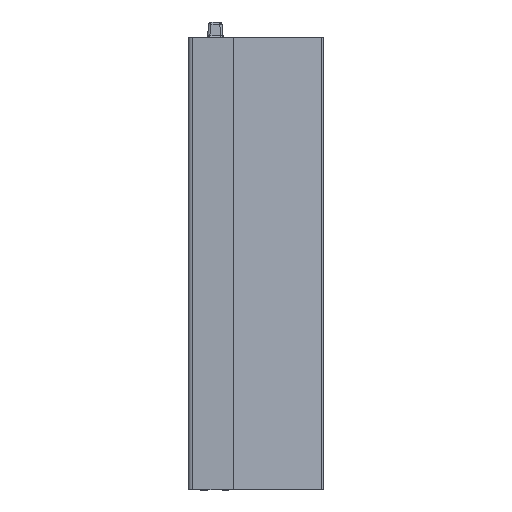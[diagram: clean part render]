
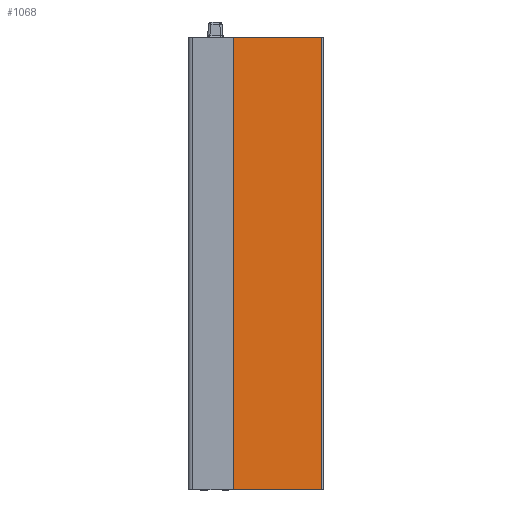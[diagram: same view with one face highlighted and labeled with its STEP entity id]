
A CAD part, left-side view. The second image highlights one B-rep face of the part: STEP entity #1068.
In plain terms, the highlighted planar face has unit normal (-0.996, -0.087, 0).
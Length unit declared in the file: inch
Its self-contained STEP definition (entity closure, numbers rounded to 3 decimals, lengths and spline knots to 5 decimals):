
#361 = ORIENTED_EDGE ( 'NONE', *, *, #7681, .T. ) ;
#429 = LINE ( 'NONE', #1341, #2983 ) ;
#641 = ORIENTED_EDGE ( 'NONE', *, *, #9526, .T. ) ;
#1068 = ADVANCED_FACE ( 'NONE', ( #1487 ), #12334, .T. ) ;
#1339 = VECTOR ( 'NONE', #12306, 39.37008 ) ;
#1341 = CARTESIAN_POINT ( 'NONE',  ( -0.5579, -0.19544, -0.72361 ) ) ;
#1487 = FACE_OUTER_BOUND ( 'NONE', #2503, .T. ) ;
#1498 = VERTEX_POINT ( 'NONE', #1609 ) ;
#1609 = CARTESIAN_POINT ( 'NONE',  ( -0.5579, -0.19544, -0.5 ) ) ;
#1624 = EDGE_CURVE ( 'NONE', #4525, #8937, #1990, .T. ) ;
#1970 = DIRECTION ( 'NONE',  ( -0.087, 0.996, 0. ) ) ;
#1990 = LINE ( 'NONE', #10751, #4208 ) ;
#2460 = CARTESIAN_POINT ( 'NONE',  ( -0.575, 0., -0.72361 ) ) ;
#2503 = EDGE_LOOP ( 'NONE', ( #6117, #361, #641, #3954 ) ) ;
#2610 = VERTEX_POINT ( 'NONE', #9969 ) ;
#2653 = EDGE_CURVE ( 'NONE', #1498, #8937, #6910, .T. ) ;
#2983 = VECTOR ( 'NONE', #8273, 39.37008 ) ;
#3496 = DIRECTION ( 'NONE',  ( -0.996, -0.087, 0. ) ) ;
#3844 = VECTOR ( 'NONE', #1970, 39.37008 ) ;
#3954 = ORIENTED_EDGE ( 'NONE', *, *, #1624, .T. ) ;
#4208 = VECTOR ( 'NONE', #9904, 39.37008 ) ;
#4462 = CARTESIAN_POINT ( 'NONE',  ( -0.575, 0., -0.5 ) ) ;
#4525 = VERTEX_POINT ( 'NONE', #12530 ) ;
#6117 = ORIENTED_EDGE ( 'NONE', *, *, #2653, .F. ) ;
#6910 = LINE ( 'NONE', #8402, #1339 ) ;
#7459 = DIRECTION ( 'NONE',  ( 0.087, -0.996, 0. ) ) ;
#7681 = EDGE_CURVE ( 'NONE', #1498, #2610, #429, .T. ) ;
#8273 = DIRECTION ( 'NONE',  ( 0., 0., 1. ) ) ;
#8402 = CARTESIAN_POINT ( 'NONE',  ( -0.575, 0., -0.5 ) ) ;
#8937 = VERTEX_POINT ( 'NONE', #4462 ) ;
#9120 = AXIS2_PLACEMENT_3D ( 'NONE', #2460, #3496, #7459 ) ;
#9526 = EDGE_CURVE ( 'NONE', #2610, #4525, #10007, .T. ) ;
#9904 = DIRECTION ( 'NONE',  ( 0., 0., -1. ) ) ;
#9969 = CARTESIAN_POINT ( 'NONE',  ( -0.5579, -0.19544, 0.5 ) ) ;
#10007 = LINE ( 'NONE', #10864, #3844 ) ;
#10751 = CARTESIAN_POINT ( 'NONE',  ( -0.575, 0., 0. ) ) ;
#10864 = CARTESIAN_POINT ( 'NONE',  ( -0.575, 0., 0.5 ) ) ;
#12306 = DIRECTION ( 'NONE',  ( -0.087, 0.996, 0. ) ) ;
#12334 = PLANE ( 'NONE',  #9120 ) ;
#12530 = CARTESIAN_POINT ( 'NONE',  ( -0.575, 0., 0.5 ) ) ;
